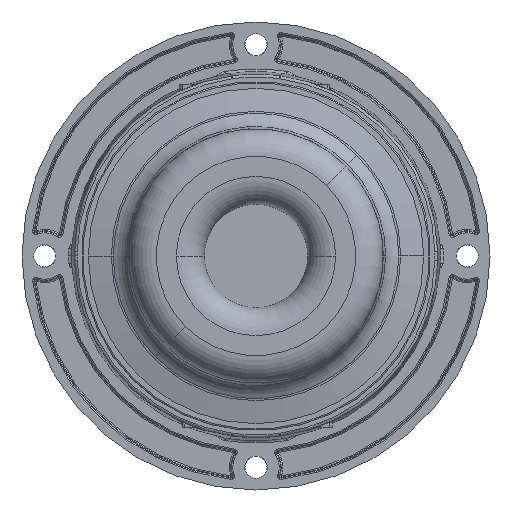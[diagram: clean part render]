
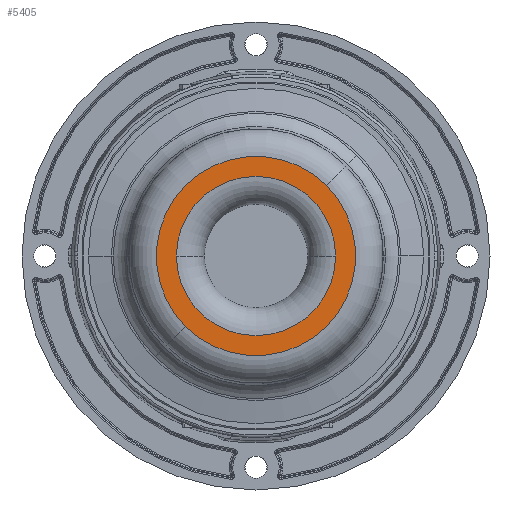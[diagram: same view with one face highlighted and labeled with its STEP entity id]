
A CAD part, front view. The second image highlights one B-rep face of the part: STEP entity #5405.
In plain terms, the highlighted planar face has unit normal (0, -1, 0).
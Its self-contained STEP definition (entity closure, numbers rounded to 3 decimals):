
#437 = CARTESIAN_POINT ( 'NONE',  ( 0., -14., 0. ) ) ;
#952 = DIRECTION ( 'NONE',  ( 0., 1., 0. ) ) ;
#1546 = EDGE_CURVE ( 'NONE', #16566, #5113, #8105, .T. ) ;
#1607 = DIRECTION ( 'NONE',  ( -1., 0., 0. ) ) ;
#1622 = EDGE_CURVE ( 'NONE', #3933, #2948, #11332, .T. ) ;
#1930 = CARTESIAN_POINT ( 'NONE',  ( -10.086, -14., -10.086 ) ) ;
#2753 = AXIS2_PLACEMENT_3D ( 'NONE', #9826, #8503, #7234 ) ;
#2859 = CARTESIAN_POINT ( 'NONE',  ( 0., -14., 0. ) ) ;
#2948 = VERTEX_POINT ( 'NONE', #14795 ) ;
#3241 = AXIS2_PLACEMENT_3D ( 'NONE', #2859, #7983, #1607 ) ;
#3933 = VERTEX_POINT ( 'NONE', #1930 ) ;
#4484 = DIRECTION ( 'NONE',  ( -1., 0., 0. ) ) ;
#5113 = VERTEX_POINT ( 'NONE', #16431 ) ;
#5405 = ADVANCED_FACE ( 'NONE', ( #13232, #14838 ), #9693, .F. ) ;
#5767 = DIRECTION ( 'NONE',  ( -1., 0., 0. ) ) ;
#5843 = DIRECTION ( 'NONE',  ( 0., 1., 0. ) ) ;
#6152 = ORIENTED_EDGE ( 'NONE', *, *, #1546, .T. ) ;
#6312 = ORIENTED_EDGE ( 'NONE', *, *, #9637, .F. ) ;
#6996 = CARTESIAN_POINT ( 'NONE',  ( 0., -14., 0. ) ) ;
#7234 = DIRECTION ( 'NONE',  ( -1., 0., 0. ) ) ;
#7237 = CARTESIAN_POINT ( 'NONE',  ( -11.4, -14., 0. ) ) ;
#7983 = DIRECTION ( 'NONE',  ( 0., 1., 0. ) ) ;
#8054 = CIRCLE ( 'NONE', #10454, 11.4 ) ;
#8105 = CIRCLE ( 'NONE', #10239, 11.4 ) ;
#8236 = DIRECTION ( 'NONE',  ( 0., 1., 0. ) ) ;
#8503 = DIRECTION ( 'NONE',  ( 0., 1., 0. ) ) ;
#8880 = AXIS2_PLACEMENT_3D ( 'NONE', #13486, #5843, #5767 ) ;
#9118 = EDGE_CURVE ( 'NONE', #5113, #16566, #8054, .T. ) ;
#9426 = EDGE_LOOP ( 'NONE', ( #6152, #14207 ) ) ;
#9637 = EDGE_CURVE ( 'NONE', #2948, #3933, #15576, .T. ) ;
#9693 = PLANE ( 'NONE',  #8880 ) ;
#9817 = ORIENTED_EDGE ( 'NONE', *, *, #1622, .F. ) ;
#9826 = CARTESIAN_POINT ( 'NONE',  ( 0., -14., 0. ) ) ;
#10239 = AXIS2_PLACEMENT_3D ( 'NONE', #6996, #952, #4484 ) ;
#10454 = AXIS2_PLACEMENT_3D ( 'NONE', #437, #8236, #11750 ) ;
#11332 = CIRCLE ( 'NONE', #2753, 14.264 ) ;
#11750 = DIRECTION ( 'NONE',  ( -1., 0., 0. ) ) ;
#13232 = FACE_OUTER_BOUND ( 'NONE', #14367, .T. ) ;
#13486 = CARTESIAN_POINT ( 'NONE',  ( 11.4, -14., 0. ) ) ;
#14207 = ORIENTED_EDGE ( 'NONE', *, *, #9118, .T. ) ;
#14367 = EDGE_LOOP ( 'NONE', ( #9817, #6312 ) ) ;
#14795 = CARTESIAN_POINT ( 'NONE',  ( 10.086, -14., 10.086 ) ) ;
#14838 = FACE_BOUND ( 'NONE', #9426, .T. ) ;
#15576 = CIRCLE ( 'NONE', #3241, 14.264 ) ;
#16431 = CARTESIAN_POINT ( 'NONE',  ( 11.4, -14., 0. ) ) ;
#16566 = VERTEX_POINT ( 'NONE', #7237 ) ;
